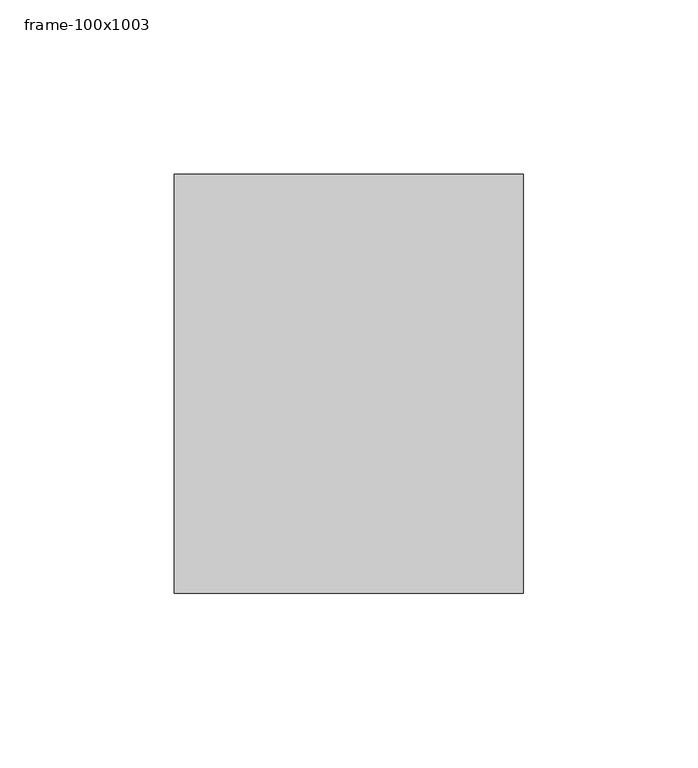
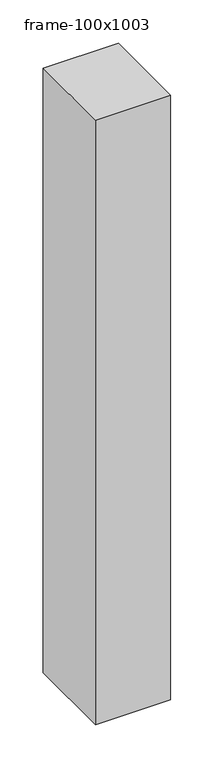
"""IFC4 building model written with IfcOpenShell, lengths in millimetres: member geometry, 長方形マリオン : frame-100x1003."""

from ifc_helpers import new_model, si_unit, frame, origin, place, context, project, spatial, polyline, outline, extrude, source, transform, mapped, element, save


def frame_100x1003_1326d172(model_context):
    return source(origin(), model_context, "Body", "SweptSolid", [
        extrude(outline(polyline([(0.0, 60.0), (0.0, -60.0), (-100.0, -60.0), (-100.0, 60.0), (0.0, 60.0)])), frame((0.0, 0.0, -850.0), z_axis=(0.0, 0.0, 1.0), x_axis=(1.0, 0.0, 0.0)), (0.0, 0.0, 1.0), 850.0),
    ])


if __name__ == "__main__":
    model = new_model("IFC4")
    model_context = context("Model", 3, world=origin())
    ifc_project = project(units=[si_unit("LENGTHUNIT", "METRE", prefix="MILLI")], contexts=[model_context])
    site = spatial("IfcSite", under=ifc_project)
    building = spatial("IfcBuilding", under=site)
    placement = place(None, origin())
    frame_100x1003_shape = frame_100x1003_1326d172(model_context)
    element("IfcMember", 1, ObjectType="長方形マリオン : frame-100x1003", at=placement, inside=building, context=model_context, shape_type="MappedRepresentation", body=[
        mapped(frame_100x1003_shape, transform((0.0, 0.0, 0.0), x_axis=(1.0, 0.0, 0.0), y_axis=(0.0, 1.0, 0.0), z_axis=(0.0, 0.0, 1.0))),
    ])
    save(model, "model.ifc")
